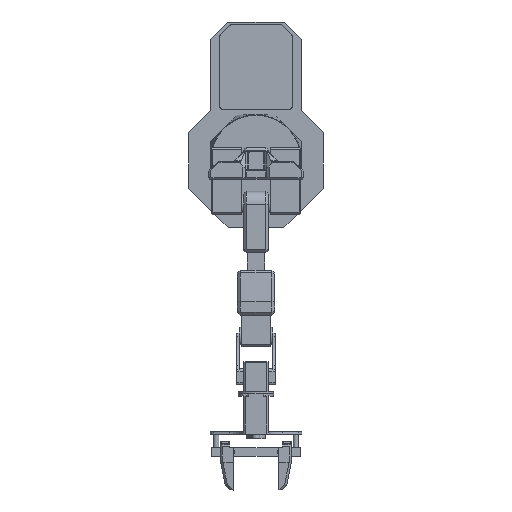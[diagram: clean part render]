
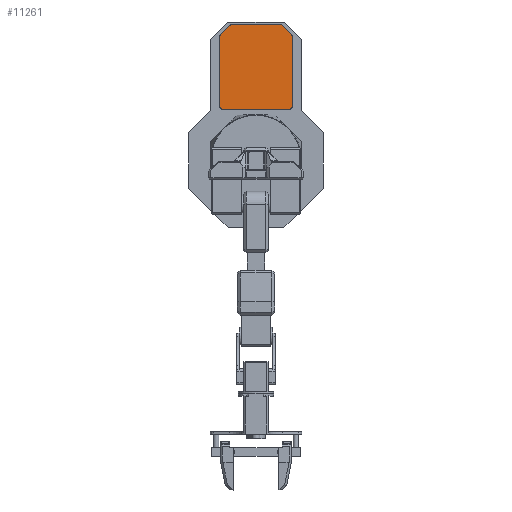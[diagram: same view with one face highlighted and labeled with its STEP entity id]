
A CAD part, top view. The second image highlights one B-rep face of the part: STEP entity #11261.
In plain terms, the highlighted planar face has unit normal (0, 0, 1).
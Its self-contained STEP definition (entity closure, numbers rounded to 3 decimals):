
#274=PLANE('',#12037);
#762=FACE_OUTER_BOUND('',#1433,.T.);
#1433=EDGE_LOOP('',(#7793,#7794,#7795,#7796,#7797,#7798,#7799,#7800,#7801,
#7802,#7803,#7804));
#2134=LINE('',#16337,#3408);
#2138=LINE('',#16349,#3412);
#2142=LINE('',#16361,#3416);
#2146=LINE('',#16373,#3420);
#2150=LINE('',#16385,#3424);
#2153=LINE('',#16394,#3427);
#3408=VECTOR('',#13039,10.);
#3412=VECTOR('',#13051,10.);
#3416=VECTOR('',#13063,10.);
#3420=VECTOR('',#13075,10.);
#3424=VECTOR('',#13087,10.);
#3427=VECTOR('',#13098,10.);
#4679=CIRCLE('',#12015,3.);
#4681=CIRCLE('',#12019,3.);
#4683=CIRCLE('',#12023,3.);
#4685=CIRCLE('',#12027,3.);
#4687=CIRCLE('',#12031,2.5);
#4689=CIRCLE('',#12035,2.5);
#4996=VERTEX_POINT('',#16327);
#4997=VERTEX_POINT('',#16329);
#4999=VERTEX_POINT('',#16335);
#5001=VERTEX_POINT('',#16341);
#5003=VERTEX_POINT('',#16347);
#5005=VERTEX_POINT('',#16353);
#5007=VERTEX_POINT('',#16359);
#5009=VERTEX_POINT('',#16365);
#5011=VERTEX_POINT('',#16371);
#5013=VERTEX_POINT('',#16377);
#5015=VERTEX_POINT('',#16383);
#5017=VERTEX_POINT('',#16389);
#6061=EDGE_CURVE('',#4997,#4996,#4679,.T.);
#6065=EDGE_CURVE('',#4996,#4999,#2134,.T.);
#6068=EDGE_CURVE('',#4999,#5001,#4681,.T.);
#6071=EDGE_CURVE('',#5001,#5003,#2138,.T.);
#6074=EDGE_CURVE('',#5003,#5005,#4683,.T.);
#6077=EDGE_CURVE('',#5005,#5007,#2142,.T.);
#6080=EDGE_CURVE('',#5007,#5009,#4685,.T.);
#6083=EDGE_CURVE('',#5009,#5011,#2146,.T.);
#6086=EDGE_CURVE('',#5011,#5013,#4687,.T.);
#6089=EDGE_CURVE('',#5013,#5015,#2150,.T.);
#6092=EDGE_CURVE('',#5015,#5017,#4689,.T.);
#6094=EDGE_CURVE('',#5017,#4997,#2153,.T.);
#7793=ORIENTED_EDGE('',*,*,#6074,.T.);
#7794=ORIENTED_EDGE('',*,*,#6077,.T.);
#7795=ORIENTED_EDGE('',*,*,#6080,.T.);
#7796=ORIENTED_EDGE('',*,*,#6083,.T.);
#7797=ORIENTED_EDGE('',*,*,#6086,.T.);
#7798=ORIENTED_EDGE('',*,*,#6089,.T.);
#7799=ORIENTED_EDGE('',*,*,#6092,.T.);
#7800=ORIENTED_EDGE('',*,*,#6094,.T.);
#7801=ORIENTED_EDGE('',*,*,#6061,.T.);
#7802=ORIENTED_EDGE('',*,*,#6065,.T.);
#7803=ORIENTED_EDGE('',*,*,#6068,.T.);
#7804=ORIENTED_EDGE('',*,*,#6071,.T.);
#11261=ADVANCED_FACE('',(#762),#274,.T.);
#12015=AXIS2_PLACEMENT_3D('',#16330,#13032,#13033);
#12019=AXIS2_PLACEMENT_3D('',#16343,#13045,#13046);
#12023=AXIS2_PLACEMENT_3D('',#16355,#13057,#13058);
#12027=AXIS2_PLACEMENT_3D('',#16367,#13069,#13070);
#12031=AXIS2_PLACEMENT_3D('',#16379,#13081,#13082);
#12035=AXIS2_PLACEMENT_3D('',#16391,#13093,#13094);
#12037=AXIS2_PLACEMENT_3D('',#16395,#13099,#13100);
#13032=DIRECTION('center_axis',(0.,0.,
1.));
#13033=DIRECTION('ref_axis',(-0.707,0.707,0.));
#13039=DIRECTION('',(0.,-1.,0.));
#13045=DIRECTION('center_axis',(0.,0.,
1.));
#13046=DIRECTION('ref_axis',(-1.,0.,0.));
#13051=DIRECTION('',(1.,0.,0.));
#13057=DIRECTION('center_axis',(0.,0.,
1.));
#13058=DIRECTION('ref_axis',(0.,-1.,0.));
#13063=DIRECTION('',(0.,1.,0.));
#13069=DIRECTION('center_axis',(0.,0.,
1.));
#13070=DIRECTION('ref_axis',(1.,0.,0.));
#13075=DIRECTION('',(-0.707,0.707,0.));
#13081=DIRECTION('center_axis',(0.,0.,
1.));
#13082=DIRECTION('ref_axis',(0.707,0.707,0.));
#13087=DIRECTION('',(-1.,-0.001,0.));
#13093=DIRECTION('center_axis',(0.,0.,
1.));
#13094=DIRECTION('ref_axis',(-0.001,1.,0.));
#13098=DIRECTION('',(-0.707,-0.707,0.));
#13099=DIRECTION('center_axis',(0.,0.,
1.));
#13100=DIRECTION('ref_axis',(-1.,0.,0.));
#16327=CARTESIAN_POINT('',(-41.,140.757,37.));
#16329=CARTESIAN_POINT('',(-40.121,142.879,37.));
#16330=CARTESIAN_POINT('Origin',(-38.,140.757,37.));
#16335=CARTESIAN_POINT('',(-41.,61.,37.));
#16337=CARTESIAN_POINT('',(-41.,140.757,37.));
#16341=CARTESIAN_POINT('',(-38.,58.,37.));
#16343=CARTESIAN_POINT('Origin',(-38.,61.,37.));
#16347=CARTESIAN_POINT('',(38.,58.,37.));
#16349=CARTESIAN_POINT('',(-38.,58.,37.));
#16353=CARTESIAN_POINT('',(41.,61.,37.));
#16355=CARTESIAN_POINT('Origin',(38.,61.,37.));
#16359=CARTESIAN_POINT('',(41.,140.757,37.));
#16361=CARTESIAN_POINT('',(41.,61.,37.));
#16365=CARTESIAN_POINT('',(40.121,142.879,37.));
#16367=CARTESIAN_POINT('Origin',(38.,140.757,37.));
#16371=CARTESIAN_POINT('',(29.673,153.327,37.));
#16373=CARTESIAN_POINT('',(40.121,142.879,37.));
#16377=CARTESIAN_POINT('',(27.904,154.059,37.));
#16379=CARTESIAN_POINT('Origin',(27.906,151.559,37.));
#16383=CARTESIAN_POINT('',(-27.943,154.023,37.));
#16385=CARTESIAN_POINT('',(27.904,154.059,37.));
#16389=CARTESIAN_POINT('',(-29.71,153.29,37.));
#16391=CARTESIAN_POINT('Origin',(-27.942,151.523,37.));
#16394=CARTESIAN_POINT('',(-29.71,153.29,37.));
#16395=CARTESIAN_POINT('Origin',(0.,106.029,
37.));
